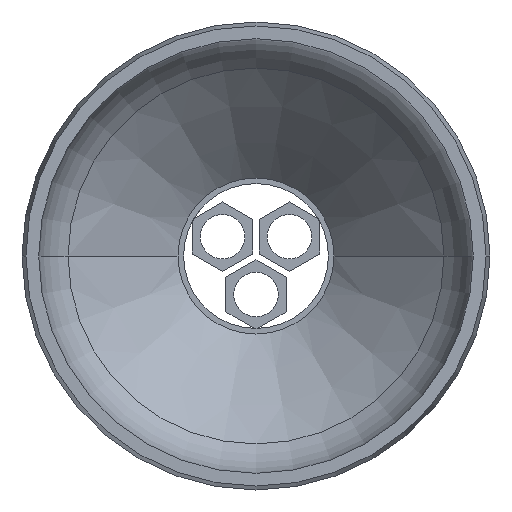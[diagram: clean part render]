
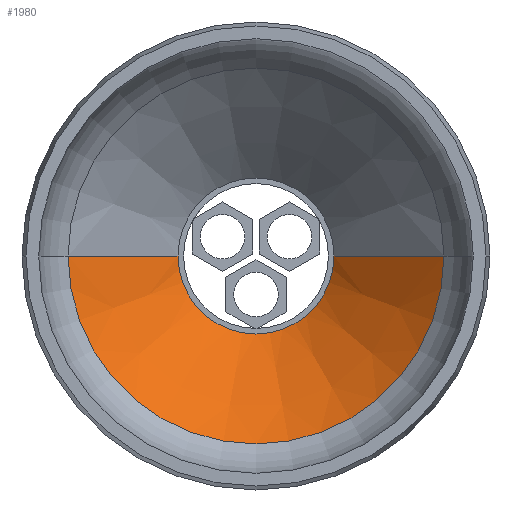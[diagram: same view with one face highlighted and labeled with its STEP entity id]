
A CAD part, front view. The second image highlights one B-rep face of the part: STEP entity #1980.
In plain terms, the highlighted conical face has half-angle 45 degrees and reference radius 7 mm.
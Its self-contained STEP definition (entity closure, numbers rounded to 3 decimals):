
#1570=CARTESIAN_POINT('',(-96.193,24.609,0.));
#1580=DIRECTION('',(0.,-1.,0.));
#1590=DIRECTION('',(-1.,0.,0.));
#1600=AXIS2_PLACEMENT_3D('',#1570,#1580,#1590);
#1610=CONICAL_SURFACE('',#1600,7.,0.785);
#1620=CARTESIAN_POINT('',(-89.193,24.609,
0.));
#1630=DIRECTION('',(0.707,-0.707,
0.));
#1640=VECTOR('',#1630,1.);
#1650=LINE('',#1620,#1640);
#1660=CARTESIAN_POINT('',(-89.193,24.609,
0.));
#1670=VERTEX_POINT('',#1660);
#1680=CARTESIAN_POINT('',(-79.329,14.745,0.));
#1690=VERTEX_POINT('',#1680);
#1700=EDGE_CURVE('',#1670,#1690,#1650,.T.);
#1710=ORIENTED_EDGE('',*,*,#1700,.F.);
#1720=CARTESIAN_POINT('',(-96.193,14.745,0.));
#1730=DIRECTION('',(0.,-1.,0.));
#1740=DIRECTION('',(-1.,0.,0.));
#1750=AXIS2_PLACEMENT_3D('',#1720,#1730,#1740);
#1760=CIRCLE('',#1750,16.864);
#1770=CARTESIAN_POINT('',(-113.057,14.745,0.));
#1780=VERTEX_POINT('',#1770);
#1790=EDGE_CURVE('',#1780,#1690,#1760,.T.);
#1800=ORIENTED_EDGE('',*,*,#1790,.T.);
#1810=CARTESIAN_POINT('',(-103.193,24.609,0.));
#1820=DIRECTION('',(-0.707,-0.707,0.));
#1830=VECTOR('',#1820,1.);
#1840=LINE('',#1810,#1830);
#1850=CARTESIAN_POINT('',(-103.193,24.609,0.));
#1860=VERTEX_POINT('',#1850);
#1870=EDGE_CURVE('',#1860,#1780,#1840,.T.);
#1880=ORIENTED_EDGE('',*,*,#1870,.T.);
#1890=CARTESIAN_POINT('',(-96.193,24.609,0.));
#1900=DIRECTION('',(0.,-1.,0.));
#1910=DIRECTION('',(1.,0.,0.));
#1920=AXIS2_PLACEMENT_3D('',#1890,#1900,#1910);
#1930=CIRCLE('',#1920,7.);
#1940=EDGE_CURVE('',#1860,#1670,#1930,.T.);
#1950=ORIENTED_EDGE('',*,*,#1940,.F.);
#1960=EDGE_LOOP('',(#1950,#1880,#1800,#1710));
#1970=FACE_OUTER_BOUND('',#1960,.T.);
#1980=ADVANCED_FACE('',(#1970),#1610,.F.);
